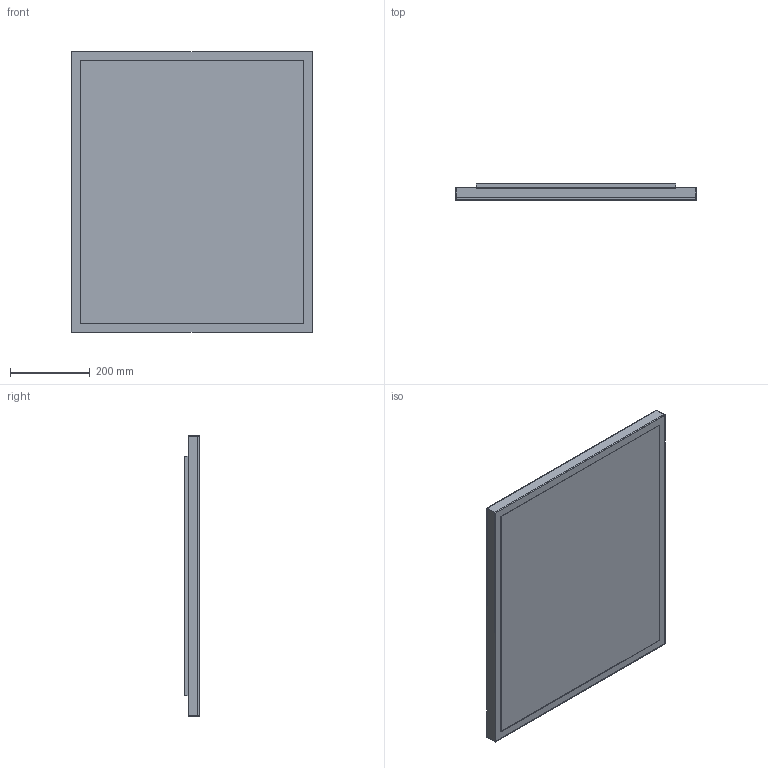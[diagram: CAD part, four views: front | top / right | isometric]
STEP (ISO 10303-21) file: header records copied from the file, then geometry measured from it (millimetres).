
FILE_DESCRIPTION(/* description */ ('Unknown'),/* implementation_level */ '2;1');
FILE_NAME(/* name */ 'Frame AMB',/* time_stamp */ '2026-04-08T13:52:20+02:00',/* author */ ('Mariusz Kirko'),/* organization */ ('Kraft'),/* preprocessor_version */ 'ST-DEVELOPER v19.4',/* originating_system */ 'Solid Edge',/* authorisation */ 'Unknown');
FILE_SCHEMA (('AUTOMOTIVE_DESIGN {1 0 10303 214 3 1 1}'));
Length unit declared in the file: millimetre
Products named in the file (4): Z³o¿enie bez piaskowania plus œcianka AMB; Ramka; Lustro be piaskowania; Ramka AMB
Assembly tree (3 placements, depth 2):
  Z³o¿enie bez piaskowania plus œcianka AMB
    Ramka
    Lustro be piaskowania
    Ramka AMB
Bounding box: 602 x 40 x 702 mm (x, y, z)
Volume: 1855845.5 mm3; surface area: 1172072.9 mm2
Topology: 3 solids, 3 shells, 35 faces, 84 edges, 56 vertices
Faces by surface type: plane 35
Entity records: 1107 total; most frequent: CARTESIAN_POINT 179, ORIENTED_EDGE 168, DIRECTION 162, EDGE_CURVE 84, LINE 84, VECTOR 84, VERTEX_POINT 56, EDGE_LOOP 40
